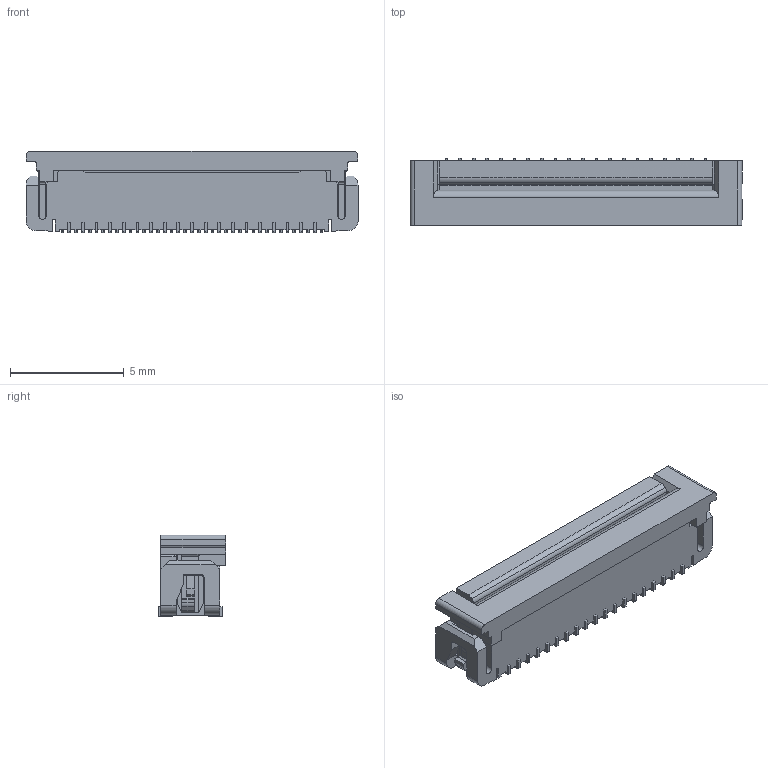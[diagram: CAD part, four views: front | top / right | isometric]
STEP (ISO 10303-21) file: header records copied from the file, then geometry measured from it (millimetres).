
FILE_DESCRIPTION (( 'STEP AP214' ), '1' );
FILE_NAME ('006841039000.STEP', '2023-02-28T07:06:30', ( '' ), ( '' ), 'SwSTEP 2.0', 'SolidWorks 2021', '' );
FILE_SCHEMA (( 'AUTOMOTIVE_DESIGN' ));
Length unit declared in the file: millimetre
Products named in the file (1): 006841039000
Bounding box: 14.6 x 2.95 x 3.6 mm (x, y, z)
Volume: 111.9 mm3; surface area: 385.7 mm2
Topology: 1 solids, 1 shells, 617 faces, 2015 edges, 1386 vertices
Faces by surface type: plane 439, cylinder 178
Entity records: 22349 total; most frequent: CARTESIAN_POINT 4482, ORIENTED_EDGE 4030, DIRECTION 3434, EDGE_CURVE 2015, LINE 1554, VECTOR 1554, VERTEX_POINT 1386, AXIS2_PLACEMENT_3D 940
